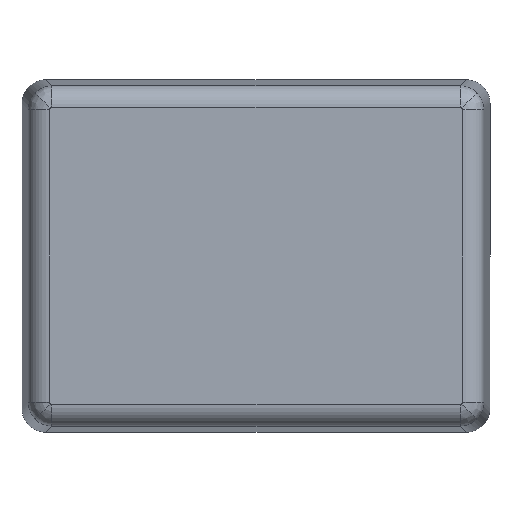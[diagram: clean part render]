
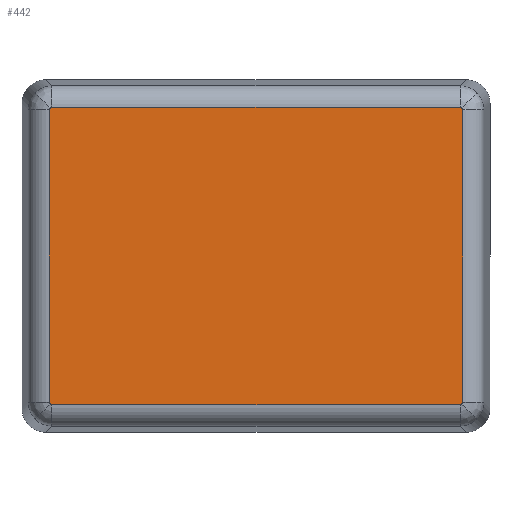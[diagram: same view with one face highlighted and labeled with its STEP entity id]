
A CAD part, front view. The second image highlights one B-rep face of the part: STEP entity #442.
In plain terms, the highlighted planar face has unit normal (0, -1, 0).
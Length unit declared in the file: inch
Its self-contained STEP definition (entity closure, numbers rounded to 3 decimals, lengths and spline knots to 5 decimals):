
#344 = EDGE_LOOP ( 'NONE', ( #443, #444, #550, #552, #551, #557, #556, #555, #579, #545, #386, #547 ) ) ;
#353 = VERTEX_POINT ( 'NONE', #1427 ) ;
#384 = EDGE_CURVE ( 'NONE', #353, #487, #1444, .T. ) ;
#386 = ORIENTED_EDGE ( 'NONE', *, *, #384, .T. ) ;
#441 = EDGE_CURVE ( 'NONE', #474, #565, #1606, .T. ) ;
#442 = ADVANCED_FACE ( 'NONE', ( #1600 ), #1591, .F. ) ;
#443 = ORIENTED_EDGE ( 'NONE', *, *, #441, .T. ) ;
#444 = ORIENTED_EDGE ( 'NONE', *, *, #559, .T. ) ;
#450 = VERTEX_POINT ( 'NONE', #1490 ) ;
#455 = EDGE_CURVE ( 'NONE', #487, #474, #1610, .T. ) ;
#460 = EDGE_CURVE ( 'NONE', #480, #481, #1643, .T. ) ;
#474 = VERTEX_POINT ( 'NONE', #1731 ) ;
#479 = EDGE_CURVE ( 'NONE', #501, #491, #1692, .T. ) ;
#480 = VERTEX_POINT ( 'NONE', #1691 ) ;
#481 = VERTEX_POINT ( 'NONE', #1649 ) ;
#487 = VERTEX_POINT ( 'NONE', #1683 ) ;
#491 = VERTEX_POINT ( 'NONE', #1825 ) ;
#501 = VERTEX_POINT ( 'NONE', #1816 ) ;
#532 = EDGE_CURVE ( 'NONE', #558, #450, #1804, .T. ) ;
#545 = ORIENTED_EDGE ( 'NONE', *, *, #546, .T. ) ;
#546 = EDGE_CURVE ( 'NONE', #567, #353, #1805, .T. ) ;
#547 = ORIENTED_EDGE ( 'NONE', *, *, #455, .T. ) ;
#550 = ORIENTED_EDGE ( 'NONE', *, *, #479, .T. ) ;
#551 = ORIENTED_EDGE ( 'NONE', *, *, #553, .T. ) ;
#552 = ORIENTED_EDGE ( 'NONE', *, *, #560, .T. ) ;
#553 = EDGE_CURVE ( 'NONE', #561, #480, #1787, .T. ) ;
#554 = EDGE_CURVE ( 'NONE', #481, #558, #1782, .T. ) ;
#555 = ORIENTED_EDGE ( 'NONE', *, *, #532, .T. ) ;
#556 = ORIENTED_EDGE ( 'NONE', *, *, #554, .T. ) ;
#557 = ORIENTED_EDGE ( 'NONE', *, *, #460, .T. ) ;
#558 = VERTEX_POINT ( 'NONE', #1797 ) ;
#559 = EDGE_CURVE ( 'NONE', #565, #501, #1776, .T. ) ;
#560 = EDGE_CURVE ( 'NONE', #491, #561, #1789, .T. ) ;
#561 = VERTEX_POINT ( 'NONE', #1792 ) ;
#565 = VERTEX_POINT ( 'NONE', #1778 ) ;
#566 = EDGE_CURVE ( 'NONE', #450, #567, #1684, .T. ) ;
#567 = VERTEX_POINT ( 'NONE', #1764 ) ;
#579 = ORIENTED_EDGE ( 'NONE', *, *, #566, .T. ) ;
#1042 = CARTESIAN_POINT ( 'NONE',  ( 0.90026, -1., -0.65625 ) ) ;
#1147 = CARTESIAN_POINT ( 'NONE',  ( 0.90321, -1., -0.65625 ) ) ;
#1196 = CARTESIAN_POINT ( 'NONE',  ( 0.90803, -1., -0.65303 ) ) ;
#1198 = CARTESIAN_POINT ( 'NONE',  ( 0.90594, -1., -0.65512 ) ) ;
#1427 = CARTESIAN_POINT ( 'NONE',  ( 0.90026, -1., -0.65625 ) ) ;
#1444 =( BOUNDED_CURVE ( )  B_SPLINE_CURVE ( 3, ( #1042, #1147, #1198, #1196 ),
 .UNSPECIFIED., .F., .T. ) 
 B_SPLINE_CURVE_WITH_KNOTS ( ( 4, 4 ),
 ( 5.49824, 6.28319 ),
 .UNSPECIFIED. ) 
 CURVE ( )  GEOMETRIC_REPRESENTATION_ITEM ( )  RATIONAL_B_SPLINE_CURVE ( ( 1., 0.949, 0.949, 1. ) ) 
 REPRESENTATION_ITEM ( '' )  );
#1490 = CARTESIAN_POINT ( 'NONE',  ( -0.90803, -1., -0.65303 ) ) ;
#1492 = DIRECTION ( 'NONE',  ( 0., 0., 1. ) ) ;
#1493 = DIRECTION ( 'NONE',  ( 0., 1., 0. ) ) ;
#1494 = CARTESIAN_POINT ( 'NONE',  ( -1.0325, -1., 0.7775 ) ) ;
#1495 = CARTESIAN_POINT ( 'NONE',  ( -0.90321, -1., -0.65625 ) ) ;
#1497 = DIRECTION ( 'NONE',  ( 0., 0., 1. ) ) ;
#1498 = VECTOR ( 'NONE', #1497, 39.37008 ) ;
#1585 = AXIS2_PLACEMENT_3D ( 'NONE', #1494, #1493, #1492 ) ;
#1591 = PLANE ( 'NONE',  #1585 ) ;
#1599 = CARTESIAN_POINT ( 'NONE',  ( 0.91125, -1., 0.64252 ) ) ;
#1600 = FACE_OUTER_BOUND ( 'NONE', #344, .T. ) ;
#1606 = LINE ( 'NONE', #1599, #1498 ) ;
#1607 = CARTESIAN_POINT ( 'NONE',  ( -0.90026, -1., -0.65625 ) ) ;
#1610 =( BOUNDED_CURVE ( )  B_SPLINE_CURVE ( 3, ( #1661, #1660, #1659, #1658 ),
 .UNSPECIFIED., .F., .T. ) 
 B_SPLINE_CURVE_WITH_KNOTS ( ( 4, 4 ),
 ( 0., 0.78495 ),
 .UNSPECIFIED. ) 
 CURVE ( )  GEOMETRIC_REPRESENTATION_ITEM ( )  RATIONAL_B_SPLINE_CURVE ( ( 1., 0.949, 0.949, 1. ) ) 
 REPRESENTATION_ITEM ( '' )  );
#1640 = CARTESIAN_POINT ( 'NONE',  ( -0.90803, -1., 0.65303 ) ) ;
#1643 =( BOUNDED_CURVE ( )  B_SPLINE_CURVE ( 3, ( #1640, #1740, #1739, #1738 ),
 .UNSPECIFIED., .F., .T. ) 
 B_SPLINE_CURVE_WITH_KNOTS ( ( 4, 4 ),
 ( 0., 0.78495 ),
 .UNSPECIFIED. ) 
 CURVE ( )  GEOMETRIC_REPRESENTATION_ITEM ( )  RATIONAL_B_SPLINE_CURVE ( ( 1., 0.949, 0.949, 1. ) ) 
 REPRESENTATION_ITEM ( '' )  );
#1649 = CARTESIAN_POINT ( 'NONE',  ( -0.91125, -1., 0.64526 ) ) ;
#1658 = CARTESIAN_POINT ( 'NONE',  ( 0.91125, -1., -0.64526 ) ) ;
#1659 = CARTESIAN_POINT ( 'NONE',  ( 0.91125, -1., -0.64821 ) ) ;
#1660 = CARTESIAN_POINT ( 'NONE',  ( 0.91012, -1., -0.65094 ) ) ;
#1661 = CARTESIAN_POINT ( 'NONE',  ( 0.90803, -1., -0.65303 ) ) ;
#1673 = CARTESIAN_POINT ( 'NONE',  ( -0.90803, -1., -0.65303 ) ) ;
#1676 = CARTESIAN_POINT ( 'NONE',  ( -0.90594, -1., -0.65512 ) ) ;
#1683 = CARTESIAN_POINT ( 'NONE',  ( 0.90803, -1., -0.65303 ) ) ;
#1684 =( BOUNDED_CURVE ( )  B_SPLINE_CURVE ( 3, ( #1673, #1676, #1495, #1607 ),
 .UNSPECIFIED., .F., .T. ) 
 B_SPLINE_CURVE_WITH_KNOTS ( ( 4, 4 ),
 ( 0., 0.78495 ),
 .UNSPECIFIED. ) 
 CURVE ( )  GEOMETRIC_REPRESENTATION_ITEM ( )  RATIONAL_B_SPLINE_CURVE ( ( 1., 0.949, 0.949, 1. ) ) 
 REPRESENTATION_ITEM ( '' )  );
#1687 = CARTESIAN_POINT ( 'NONE',  ( 0.90026, -1., 0.65625 ) ) ;
#1688 = CARTESIAN_POINT ( 'NONE',  ( 0.90321, -1., 0.65625 ) ) ;
#1689 = CARTESIAN_POINT ( 'NONE',  ( 0.90594, -1., 0.65512 ) ) ;
#1690 = CARTESIAN_POINT ( 'NONE',  ( 0.90803, -1., 0.65303 ) ) ;
#1691 = CARTESIAN_POINT ( 'NONE',  ( -0.90803, -1., 0.65303 ) ) ;
#1692 =( BOUNDED_CURVE ( )  B_SPLINE_CURVE ( 3, ( #1690, #1689, #1688, #1687 ),
 .UNSPECIFIED., .F., .T. ) 
 B_SPLINE_CURVE_WITH_KNOTS ( ( 4, 4 ),
 ( 0., 0.78495 ),
 .UNSPECIFIED. ) 
 CURVE ( )  GEOMETRIC_REPRESENTATION_ITEM ( )  RATIONAL_B_SPLINE_CURVE ( ( 1., 0.949, 0.949, 1. ) ) 
 REPRESENTATION_ITEM ( '' )  );
#1731 = CARTESIAN_POINT ( 'NONE',  ( 0.91125, -1., -0.64526 ) ) ;
#1738 = CARTESIAN_POINT ( 'NONE',  ( -0.91125, -1., 0.64526 ) ) ;
#1739 = CARTESIAN_POINT ( 'NONE',  ( -0.91125, -1., 0.64821 ) ) ;
#1740 = CARTESIAN_POINT ( 'NONE',  ( -0.91012, -1., 0.65094 ) ) ;
#1764 = CARTESIAN_POINT ( 'NONE',  ( -0.90026, -1., -0.65625 ) ) ;
#1769 = DIRECTION ( 'NONE',  ( -1., 0., 0. ) ) ;
#1770 = VECTOR ( 'NONE', #1769, 39.37008 ) ;
#1771 = CARTESIAN_POINT ( 'NONE',  ( -0.89752, -1., 0.65625 ) ) ;
#1772 = CARTESIAN_POINT ( 'NONE',  ( 0.90803, -1., 0.65303 ) ) ;
#1773 = CARTESIAN_POINT ( 'NONE',  ( 0.91012, -1., 0.65094 ) ) ;
#1774 = CARTESIAN_POINT ( 'NONE',  ( 0.91125, -1., 0.64821 ) ) ;
#1775 = CARTESIAN_POINT ( 'NONE',  ( 0.91125, -1., 0.64526 ) ) ;
#1776 =( BOUNDED_CURVE ( )  B_SPLINE_CURVE ( 3, ( #1775, #1774, #1773, #1772 ),
 .UNSPECIFIED., .F., .T. ) 
 B_SPLINE_CURVE_WITH_KNOTS ( ( 4, 4 ),
 ( 5.49824, 6.28319 ),
 .UNSPECIFIED. ) 
 CURVE ( )  GEOMETRIC_REPRESENTATION_ITEM ( )  RATIONAL_B_SPLINE_CURVE ( ( 1., 0.949, 0.949, 1. ) ) 
 REPRESENTATION_ITEM ( '' )  );
#1778 = CARTESIAN_POINT ( 'NONE',  ( 0.91125, -1., 0.64526 ) ) ;
#1779 = DIRECTION ( 'NONE',  ( 0., 0., -1. ) ) ;
#1780 = VECTOR ( 'NONE', #1779, 39.37008 ) ;
#1781 = CARTESIAN_POINT ( 'NONE',  ( -0.91125, -1., -0.64252 ) ) ;
#1782 = LINE ( 'NONE', #1781, #1780 ) ;
#1783 = CARTESIAN_POINT ( 'NONE',  ( -0.90803, -1., 0.65303 ) ) ;
#1784 = CARTESIAN_POINT ( 'NONE',  ( -0.90594, -1., 0.65512 ) ) ;
#1785 = CARTESIAN_POINT ( 'NONE',  ( -0.90321, -1., 0.65625 ) ) ;
#1786 = CARTESIAN_POINT ( 'NONE',  ( -0.90026, -1., 0.65625 ) ) ;
#1787 =( BOUNDED_CURVE ( )  B_SPLINE_CURVE ( 3, ( #1786, #1785, #1784, #1783 ),
 .UNSPECIFIED., .F., .T. ) 
 B_SPLINE_CURVE_WITH_KNOTS ( ( 4, 4 ),
 ( 5.49824, 6.28319 ),
 .UNSPECIFIED. ) 
 CURVE ( )  GEOMETRIC_REPRESENTATION_ITEM ( )  RATIONAL_B_SPLINE_CURVE ( ( 1., 0.949, 0.949, 1. ) ) 
 REPRESENTATION_ITEM ( '' )  );
#1789 = LINE ( 'NONE', #1771, #1770 ) ;
#1791 = VECTOR ( 'NONE', #1795, 39.37008 ) ;
#1792 = CARTESIAN_POINT ( 'NONE',  ( -0.90026, -1., 0.65625 ) ) ;
#1795 = DIRECTION ( 'NONE',  ( 1., 0., 0. ) ) ;
#1796 = CARTESIAN_POINT ( 'NONE',  ( 0.89752, -1., -0.65625 ) ) ;
#1797 = CARTESIAN_POINT ( 'NONE',  ( -0.91125, -1., -0.64526 ) ) ;
#1800 = CARTESIAN_POINT ( 'NONE',  ( -0.90803, -1., -0.65303 ) ) ;
#1801 = CARTESIAN_POINT ( 'NONE',  ( -0.91012, -1., -0.65094 ) ) ;
#1802 = CARTESIAN_POINT ( 'NONE',  ( -0.91125, -1., -0.64821 ) ) ;
#1803 = CARTESIAN_POINT ( 'NONE',  ( -0.91125, -1., -0.64526 ) ) ;
#1804 =( BOUNDED_CURVE ( )  B_SPLINE_CURVE ( 3, ( #1803, #1802, #1801, #1800 ),
 .UNSPECIFIED., .F., .T. ) 
 B_SPLINE_CURVE_WITH_KNOTS ( ( 4, 4 ),
 ( 5.49824, 6.28319 ),
 .UNSPECIFIED. ) 
 CURVE ( )  GEOMETRIC_REPRESENTATION_ITEM ( )  RATIONAL_B_SPLINE_CURVE ( ( 1., 0.949, 0.949, 1. ) ) 
 REPRESENTATION_ITEM ( '' )  );
#1805 = LINE ( 'NONE', #1796, #1791 ) ;
#1816 = CARTESIAN_POINT ( 'NONE',  ( 0.90803, -1., 0.65303 ) ) ;
#1825 = CARTESIAN_POINT ( 'NONE',  ( 0.90026, -1., 0.65625 ) ) ;
